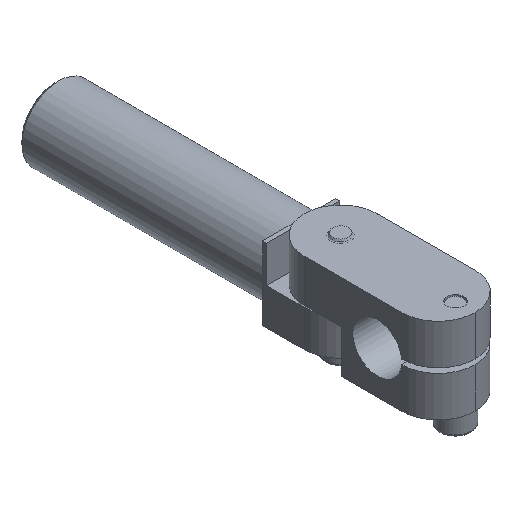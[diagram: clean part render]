
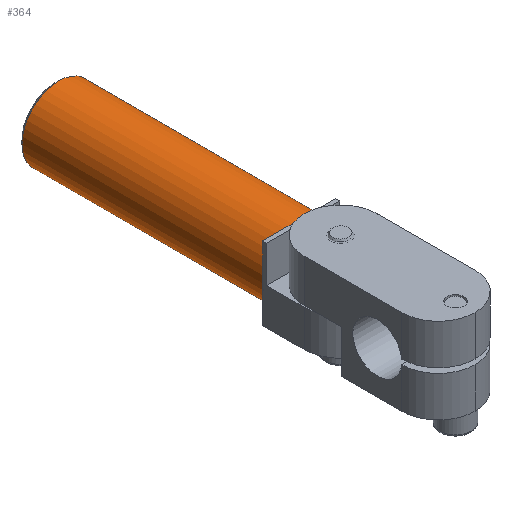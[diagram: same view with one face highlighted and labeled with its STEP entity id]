
A CAD part, isometric view. The second image highlights one B-rep face of the part: STEP entity #364.
In plain terms, the highlighted cylindrical face has radius 15 mm (diameter 30 mm), a full revolution.
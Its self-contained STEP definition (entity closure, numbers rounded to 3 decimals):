
#364=ADVANCED_FACE('',(#554,#555),#556,.T.);
#554=FACE_OUTER_BOUND('',#768,.T.);
#555=FACE_OUTER_BOUND('',#769,.T.);
#556=CYLINDRICAL_SURFACE('',#770,15.0);
#768=EDGE_LOOP('',(#1013));
#769=EDGE_LOOP('',(#1014,#1015,#1016,#1017));
#770=AXIS2_PLACEMENT_3D('',#1018,#1019,#1020);
#1013=ORIENTED_EDGE('',*,*,#1429,.T.);
#1014=ORIENTED_EDGE('',*,*,#1433,.F.);
#1015=ORIENTED_EDGE('',*,*,#1434,.F.);
#1016=ORIENTED_EDGE('',*,*,#1435,.F.);
#1017=ORIENTED_EDGE('',*,*,#1436,.F.);
#1018=CARTESIAN_POINT('',(0.,-60.0,0.0));
#1019=DIRECTION('',(0.,-1.0,0.));
#1020=DIRECTION('',(0.0,0.,-1.0));
#1429=EDGE_CURVE('',#1624,#1624,#1625,.F.);
#1433=EDGE_CURVE('',#1615,#1603,#1629,.T.);
#1434=EDGE_CURVE('',#1592,#1615,#1630,.T.);
#1435=EDGE_CURVE('',#1631,#1592,#1632,.T.);
#1436=EDGE_CURVE('',#1603,#1631,#1633,.T.);
#1592=VERTEX_POINT('',#1851);
#1603=VERTEX_POINT('',#1866);
#1615=VERTEX_POINT('',#1884);
#1624=VERTEX_POINT('',#1897);
#1625=CIRCLE('',#1898,15.0);
#1629=CIRCLE('',#1903,15.0);
#1630=CIRCLE('',#1904,15.0);
#1631=VERTEX_POINT('',#1905);
#1632=CIRCLE('',#1906,15.0);
#1633=CIRCLE('',#1907,15.0);
#1851=CARTESIAN_POINT('',(0.,32.0,15.0));
#1866=CARTESIAN_POINT('',(0.,32.0,-15.0));
#1884=CARTESIAN_POINT('',(-15.0,32.0,0.));
#1897=CARTESIAN_POINT('',(0.,130.5,15.0));
#1898=AXIS2_PLACEMENT_3D('',#2186,#2187,#2188);
#1903=AXIS2_PLACEMENT_3D('',#2190,#2191,#2192);
#1904=AXIS2_PLACEMENT_3D('',#2193,#2194,#2195);
#1905=CARTESIAN_POINT('',(15.0,32.0,0.));
#1906=AXIS2_PLACEMENT_3D('',#2196,#2197,#2198);
#1907=AXIS2_PLACEMENT_3D('',#2199,#2200,#2201);
#2186=CARTESIAN_POINT('',(0.,130.5,0.));
#2187=DIRECTION('',(0.,1.0,0.));
#2188=DIRECTION('',(0.0,0.,1.0));
#2190=CARTESIAN_POINT('',(0.,32.0,0.));
#2191=DIRECTION('',(0.,-1.0,0.));
#2192=DIRECTION('',(0.0,0.,-1.0));
#2193=CARTESIAN_POINT('',(0.,32.0,0.));
#2194=DIRECTION('',(0.,-1.0,0.));
#2195=DIRECTION('',(0.0,0.,-1.0));
#2196=CARTESIAN_POINT('',(0.,32.0,0.));
#2197=DIRECTION('',(0.,-1.0,0.));
#2198=DIRECTION('',(0.0,0.,-1.0));
#2199=CARTESIAN_POINT('',(0.,32.0,0.));
#2200=DIRECTION('',(0.,-1.0,0.));
#2201=DIRECTION('',(0.0,0.,-1.0));
